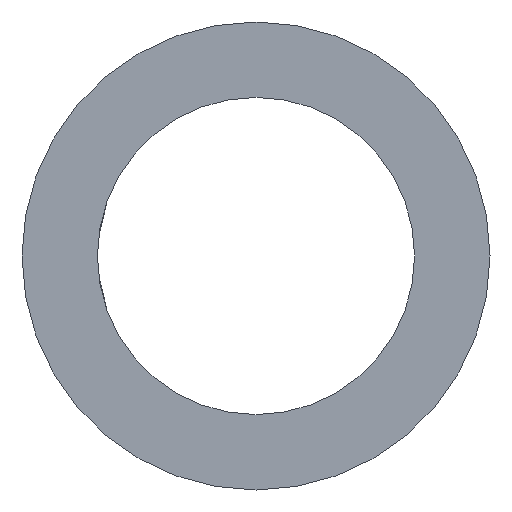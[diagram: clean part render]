
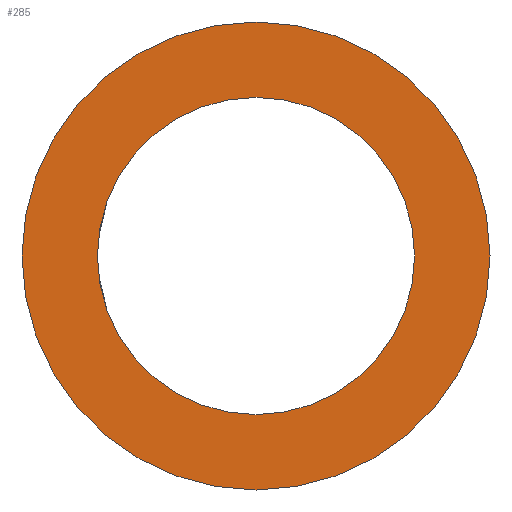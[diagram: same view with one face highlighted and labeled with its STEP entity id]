
A CAD part, left-side view. The second image highlights one B-rep face of the part: STEP entity #285.
In plain terms, the highlighted planar face has unit normal (-1, 0, 0).
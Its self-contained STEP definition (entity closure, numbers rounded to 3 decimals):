
#95 = VERTEX_POINT('',#96);
#96 = CARTESIAN_POINT('',(0.,0.,6.1));
#104 = EDGE_CURVE('',#95,#95,#105,.T.);
#105 = CIRCLE('',#106,6.1);
#106 = AXIS2_PLACEMENT_3D('',#107,#108,#109);
#107 = CARTESIAN_POINT('',(0.,0.,0.));
#108 = DIRECTION('',(1.,0.,0.));
#109 = DIRECTION('',(-0.,0.,1.));
#285 = ADVANCED_FACE('',(#286,#297),#300,.F.);
#286 = FACE_BOUND('',#287,.F.);
#287 = EDGE_LOOP('',(#288));
#288 = ORIENTED_EDGE('',*,*,#289,.T.);
#289 = EDGE_CURVE('',#290,#290,#292,.T.);
#290 = VERTEX_POINT('',#291);
#291 = CARTESIAN_POINT('',(0.,0.,9.));
#292 = CIRCLE('',#293,9.);
#293 = AXIS2_PLACEMENT_3D('',#294,#295,#296);
#294 = CARTESIAN_POINT('',(0.,0.,0.));
#295 = DIRECTION('',(1.,0.,0.));
#296 = DIRECTION('',(-0.,0.,1.));
#297 = FACE_BOUND('',#298,.F.);
#298 = EDGE_LOOP('',(#299));
#299 = ORIENTED_EDGE('',*,*,#104,.F.);
#300 = PLANE('',#301);
#301 = AXIS2_PLACEMENT_3D('',#302,#303,#304);
#302 = CARTESIAN_POINT('',(0.,0.,0.));
#303 = DIRECTION('',(1.,0.,0.));
#304 = DIRECTION('',(-0.,0.,1.));
